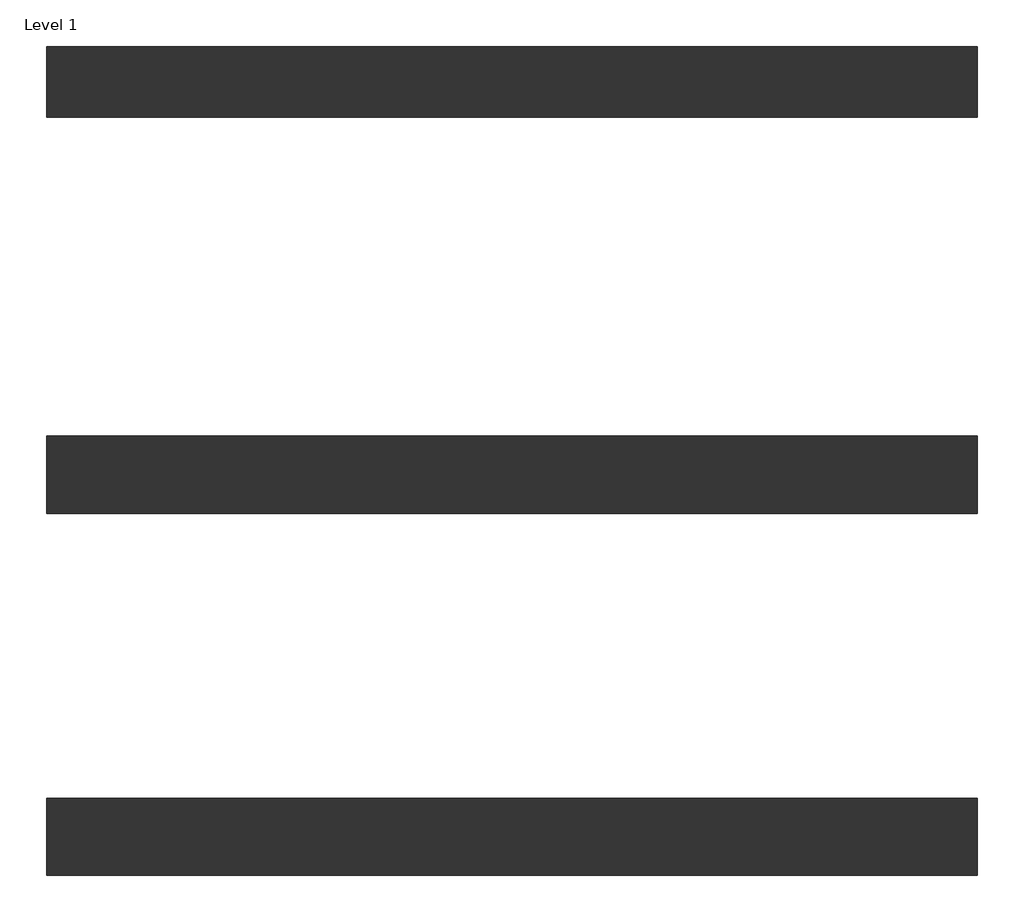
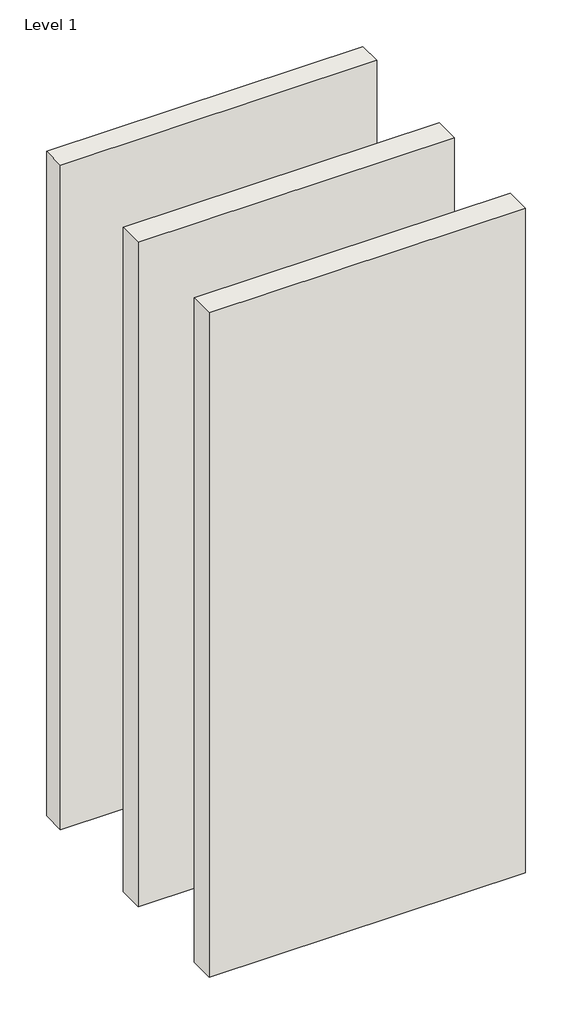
# One storey: 3 walls.
"""IFC4 building model written with IfcOpenShell, lengths in millimetres."""

from ifc_helpers import new_model, si_unit, origin, origin_with_axes, place, context, project, spatial, polyline, outline, extrude, element, save

model = new_model("IFC4")

# Units and contexts
model_context = context("Model", 3, world=origin())
ifc_project = project(units=[si_unit("LENGTHUNIT", "METRE", prefix="MILLI")], contexts=[model_context])

# Site, building, storey
site = spatial("IfcSite", under=ifc_project)
building = spatial("IfcBuilding", under=site)
storey = spatial("IfcBuildingStorey", under=building, Name="Level 1", Elevation=0.0)

# Walls
placement = place(None, origin())
element("IfcWall", 1, ObjectType="Interior-Steel Frame-Laminated Services-CSR7840-137mm", at=placement, inside=storey, context=model_context, shape_type="SweptSolid", body=[
    extrude(outline(polyline([(-301.5868292, -2786.504767), (1498.4131708, -2786.504767), (1498.4131708, -2923.504767), (-301.5868292, -2923.504767), (-301.5868292, -2786.504767)])), origin_with_axes(), (0.0, 0.0, 1.0), 4000.0),
])
element("IfcWall", 2, ObjectType="Interior-Steel Frame-Laminated Services-CSR7840-149mm", at=placement, inside=storey, context=model_context, shape_type="SweptSolid", body=[
    extrude(outline(polyline([(-301.5868292, -3540.504767), (1498.4131708, -3540.504767), (1498.4131708, -3689.504767), (-301.5868292, -3689.504767), (-301.5868292, -3540.504767)])), origin_with_axes(), (0.0, 0.0, 1.0), 4000.0),
])
element("IfcWall", 3, ObjectType="Interior-Steel Frame-Laminated Services-CSR7840-165mm", at=placement, inside=storey, context=model_context, shape_type="SweptSolid", body=[
    extrude(outline(polyline([(-301.5868292, -4240.504767), (1498.4131708, -4240.504767), (1498.4131708, -4389.504767), (-301.5868292, -4389.504767), (-301.5868292, -4240.504767)])), origin_with_axes(), (0.0, 0.0, 1.0), 4000.0),
])

save(model, "model.ifc")
